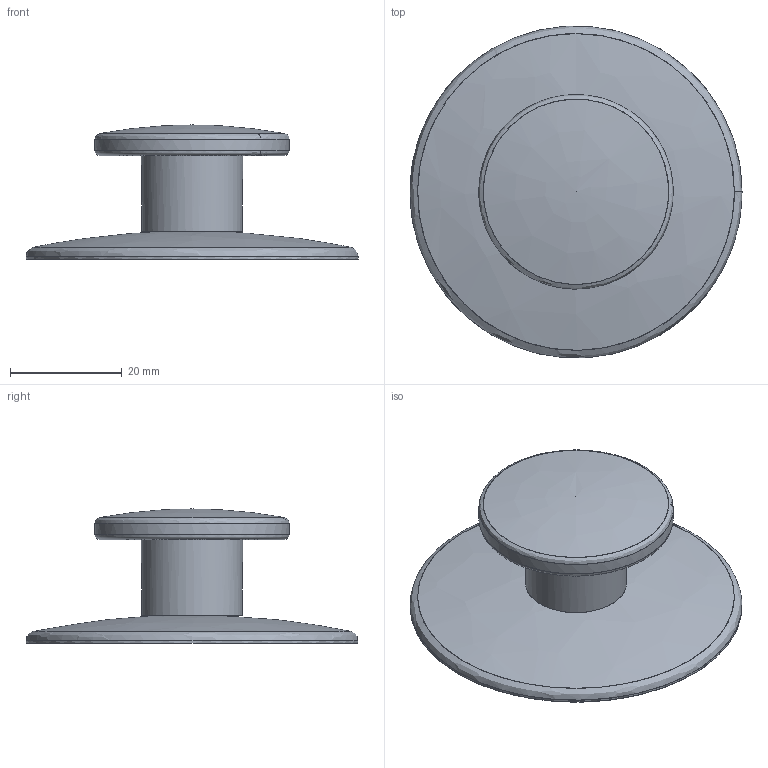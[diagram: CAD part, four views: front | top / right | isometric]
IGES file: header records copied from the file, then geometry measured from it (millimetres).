
Start section: C
Global section: file name: 8299-60.igs; native system: By Siemens PLM Incorporated; preprocessor: XPlus GENERIC/IGES 16.0.42; author: Author; organization: Title; date: 20220504.145349; units: millimetre
Bounding box: 59.4 x 59.29 x 23.99 mm (x, y, z)
Surface area: 10397.1 mm2 (no closed solid volume)
Topology: 0 solids, 0 shells, 21 faces, 138 edges, 136 vertices
Faces by surface type: bspline 21
